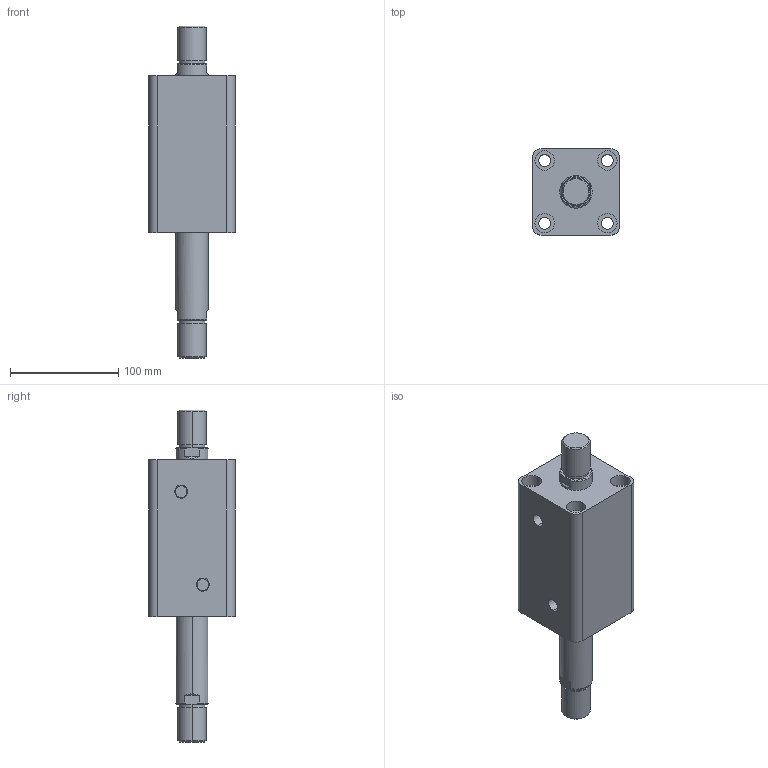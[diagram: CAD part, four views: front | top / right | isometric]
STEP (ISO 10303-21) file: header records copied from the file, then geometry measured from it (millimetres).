
FILE_DESCRIPTION (( 'STEP AP203' ), '1' );
FILE_NAME ('HTB-SW50-70W.STEP', '2019-10-07T09:23:30', ( '微软用户' ), ( '微软中国' ), 'SwSTEP 2.0', 'SolidWorks 2012', '' );
FILE_SCHEMA (( 'CONFIG_CONTROL_DESIGN' ));
Length unit declared in the file: millimetre
Products named in the file (3): HTB-SW50-70W; HTB-SW50-70W活塞杆; HTB-SW50-70掛极
Assembly tree (2 placements, depth 2):
  HTB-SW50-70W
    HTB-SW50-70掛极
    HTB-SW50-70W活塞杆
Bounding box: 80 x 80 x 307 mm (x, y, z)
Volume: 862022.2 mm3; surface area: 132852.4 mm2
Topology: 2 solids, 2 shells, 108 faces, 240 edges, 156 vertices
Faces by surface type: cylinder 52, plane 36, torus 12, cone 8
Entity records: 3449 total; most frequent: CARTESIAN_POINT 629, DIRECTION 586, ORIENTED_EDGE 480, AXIS2_PLACEMENT_3D 249, EDGE_CURVE 240, VERTEX_POINT 156, EDGE_LOOP 138, CIRCLE 136
